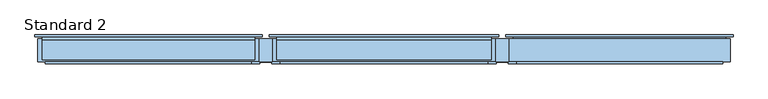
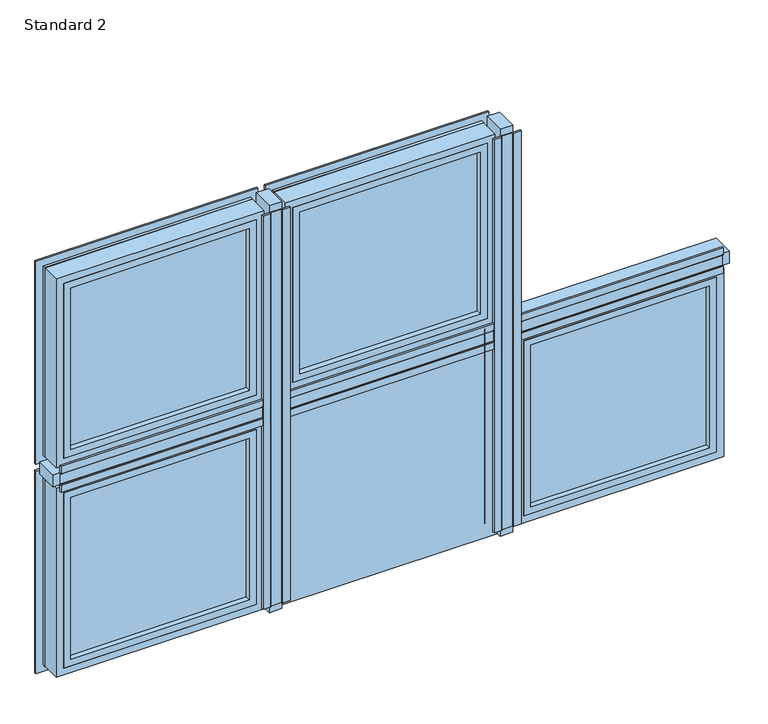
"""IFC4 building model written with IfcOpenShell, lengths in millimetres: window geometry, SMARTS_AlithermHeritage : Standard 2."""

from ifc_helpers import new_model, si_unit, point, frame, frame_2d, origin, place, context, project, spatial, polyline, circle_curve, ellipse_curve, trimmed, segment, composite_curve, outline, extrude, faceted_brep, source, transform, mapped, element, save
from ifc_brep_helpers import plane_surface, cylinder_surface, revolved_surface, advanced_brep


def standard_2_70366785(model_context):
    return source(origin(), model_context, "Body", "SolidModel", [
        extrude(outline(polyline([(-260.3608122, 95.2798432), (-232.9725211, 95.2798432), (-232.9725211, 47.279476), (-260.3608122, 47.279476), (-260.3608122, 95.2798432)])), frame((0.0, 0.0, 652.6941456), z_axis=(0.0, 0.0, 1.0), x_axis=(1.0, 0.0, 0.0)), (0.0, 0.0, 1.0), 919.6117089),
        extrude(outline(composite_curve([segment(polyline([(-275.6666667, 47.279476), (-217.6666667, 47.279476), (-217.6666667, 43.2798432), (-233.6666667, 43.2798432)]), True, "CONTINUOUS"), segment(trimmed(circle_curve(frame_2d((-233.6666667, 44.2798432)), 1.0), [point((-233.6666667, 43.2798432))], [point((-234.6666667, 44.2798432))], False, "CARTESIAN"), True, "CONTINUOUS"), segment(polyline([(-234.6666667, 44.2798432), (-234.6666667, 45.7798432), (-258.6666667, 45.7798432), (-258.6666667, 44.2798432)]), True, "CONTINUOUS"), segment(trimmed(circle_curve(frame_2d((-259.6666667, 44.2798432)), 1.0), [point((-258.6666667, 44.2798432))], [point((-259.6666667, 43.2798432))], False, "CARTESIAN"), True, "CONTINUOUS"), segment(polyline([(-259.6666667, 43.2798432), (-275.6666667, 43.2798432), (-275.6666667, 47.279476)]), True, "CONTINUOUS")], self_intersect=False)), frame((0.0, 0.0, 668.0), z_axis=(0.0, 0.0, 1.0), x_axis=(1.0, 0.0, 0.0)), (0.0, 0.0, 1.0), 889.0),
        extrude(outline(polyline([(232.9725211, 95.2798432), (260.3608122, 95.2798432), (260.3608122, 47.279476), (232.9725211, 47.279476), (232.9725211, 95.2798432)])), frame((0.0, 0.0, 652.6941456), z_axis=(0.0, 0.0, 1.0), x_axis=(1.0, 0.0, 0.0)), (0.0, 0.0, 1.0), 919.6117089),
        extrude(outline(composite_curve([segment(polyline([(217.6666667, 47.279476), (275.6666667, 47.279476), (275.6666667, 43.2798432), (259.6666667, 43.2798432)]), True, "CONTINUOUS"), segment(trimmed(circle_curve(frame_2d((259.6666667, 44.2798432)), 1.0), [point((259.6666667, 43.2798432))], [point((258.6666667, 44.2798432))], False, "CARTESIAN"), True, "CONTINUOUS"), segment(polyline([(258.6666667, 44.2798432), (258.6666667, 45.7798432), (234.6666667, 45.7798432), (234.6666667, 44.2798432)]), True, "CONTINUOUS"), segment(trimmed(circle_curve(frame_2d((233.6666667, 44.2798432)), 1.0), [point((234.6666667, 44.2798432))], [point((233.6666667, 43.2798432))], False, "CARTESIAN"), True, "CONTINUOUS"), segment(polyline([(233.6666667, 43.2798432), (217.6666667, 43.2798432), (217.6666667, 47.279476)]), True, "CONTINUOUS")], self_intersect=False)), frame((0.0, 0.0, 668.0), z_axis=(0.0, 0.0, 1.0), x_axis=(1.0, 0.0, 0.0)), (0.0, 0.0, 1.0), 889.0),
        extrude(outline(polyline([(-260.3608122, 95.2798432), (-260.3608122, 47.279476), (-722.3058544, 47.279476), (-722.3058544, 95.2798432), (-260.3608122, 95.2798432)])), frame((0.0, 0.0, 1098.8058544), z_axis=(0.0, 0.0, 1.0), x_axis=(1.0, 0.0, 0.0)), (0.0, 0.0, 1.0), 27.3882911),
        extrude(outline(composite_curve([segment(polyline([(47.279476, 1083.5), (43.2798432, 1083.5), (43.2798432, 1099.5)]), True, "CONTINUOUS"), segment(trimmed(circle_curve(frame_2d((44.2798432, 1099.5)), 1.0), [point((43.2798432, 1099.5))], [point((44.2798432, 1100.5))], False, "CARTESIAN"), True, "CONTINUOUS"), segment(polyline([(44.2798432, 1100.5), (45.7798432, 1100.5), (45.7798432, 1124.5), (44.2798432, 1124.5)]), True, "CONTINUOUS"), segment(trimmed(circle_curve(frame_2d((44.2798432, 1125.5)), 1.0), [point((44.2798432, 1124.5))], [point((43.2798432, 1125.5))], False, "CARTESIAN"), True, "CONTINUOUS"), segment(polyline([(43.2798432, 1125.5), (43.2798432, 1141.5), (47.279476, 1141.5), (47.279476, 1083.5)]), True, "CONTINUOUS")], self_intersect=False)), frame((-707.0, 0.0, 0.0), z_axis=(1.0, 0.0, 0.0), x_axis=(0.0, 1.0, 0.0)), (0.0, 0.0, 1.0), 431.3333333),
        extrude(outline(polyline([(232.9725211, 95.2798432), (232.9725211, 47.279476), (-232.9725211, 47.279476), (-232.9725211, 95.2798432), (232.9725211, 95.2798432)])), frame((0.0, 0.0, 1098.8058544), z_axis=(0.0, 0.0, 1.0), x_axis=(1.0, 0.0, 0.0)), (0.0, 0.0, 1.0), 27.3882911),
        extrude(outline(composite_curve([segment(polyline([(47.279476, 1083.5), (43.2798432, 1083.5), (43.2798432, 1099.5)]), True, "CONTINUOUS"), segment(trimmed(circle_curve(frame_2d((44.2798432, 1099.5)), 1.0), [point((43.2798432, 1099.5))], [point((44.2798432, 1100.5))], False, "CARTESIAN"), True, "CONTINUOUS"), segment(polyline([(44.2798432, 1100.5), (45.7798432, 1100.5), (45.7798432, 1124.5), (44.2798432, 1124.5)]), True, "CONTINUOUS"), segment(trimmed(circle_curve(frame_2d((44.2798432, 1125.5)), 1.0), [point((44.2798432, 1124.5))], [point((43.2798432, 1125.5))], False, "CARTESIAN"), True, "CONTINUOUS"), segment(polyline([(43.2798432, 1125.5), (43.2798432, 1141.5), (47.279476, 1141.5), (47.279476, 1083.5)]), True, "CONTINUOUS")], self_intersect=False)), frame((-217.6666667, 0.0, 0.0), z_axis=(1.0, 0.0, 0.0), x_axis=(0.0, 1.0, 0.0)), (0.0, 0.0, 1.0), 435.3333333),
        extrude(outline(polyline([(722.3058544, 95.2798432), (722.3058544, 47.279476), (260.3608122, 47.279476), (260.3608122, 95.2798432), (722.3058544, 95.2798432)])), frame((0.0, 0.0, 1098.8058544), z_axis=(0.0, 0.0, 1.0), x_axis=(1.0, 0.0, 0.0)), (0.0, 0.0, 1.0), 27.3882911),
        extrude(outline(composite_curve([segment(polyline([(47.279476, 1083.5), (43.2798432, 1083.5), (43.2798432, 1099.5)]), True, "CONTINUOUS"), segment(trimmed(circle_curve(frame_2d((44.2798432, 1099.5)), 1.0), [point((43.2798432, 1099.5))], [point((44.2798432, 1100.5))], False, "CARTESIAN"), True, "CONTINUOUS"), segment(polyline([(44.2798432, 1100.5), (45.7798432, 1100.5), (45.7798432, 1124.5), (44.2798432, 1124.5)]), True, "CONTINUOUS"), segment(trimmed(circle_curve(frame_2d((44.2798432, 1125.5)), 1.0), [point((44.2798432, 1124.5))], [point((43.2798432, 1125.5))], False, "CARTESIAN"), True, "CONTINUOUS"), segment(polyline([(43.2798432, 1125.5), (43.2798432, 1141.5), (47.279476, 1141.5), (47.279476, 1083.5)]), True, "CONTINUOUS")], self_intersect=False)), frame((275.6666667, 0.0, 0.0), z_axis=(1.0, 0.0, 0.0), x_axis=(0.0, 1.0, 0.0)), (0.0, 0.0, 1.0), 431.3333333),
        extrude(outline(polyline([(-693.5, 89.2798432), (-289.1666667, 89.2798432), (-289.1666667, 85.2798432), (-693.5, 85.2798432), (-693.5, 89.2798432)])), frame((0.0, 0.0, 681.5), z_axis=(0.0, 0.0, 1.0), x_axis=(1.0, 0.0, 0.0)), (0.0, 0.0, 1.0), 388.5),
        extrude(outline(polyline([(-693.5, 69.2798432), (-289.1666667, 69.2798432), (-289.1666667, 65.2798432), (-693.5, 65.2798432), (-693.5, 69.2798432)])), frame((0.0, 0.0, 681.5), z_axis=(0.0, 0.0, 1.0), x_axis=(1.0, 0.0, 0.0)), (0.0, 0.0, 1.0), 388.5),
        extrude(outline(polyline([(1070.0, -693.5), (681.5, -693.5), (681.5, -289.1666667), (1070.0, -289.1666667), (1070.0, -693.5)]), holes=[polyline([(1060.0, -299.1666667), (691.5, -299.1666667), (691.5, -683.5), (1060.0, -683.5), (1060.0, -299.1666667)])]), frame((0.0, 69.2798432, 0.0), z_axis=(0.0, 1.0, 0.0), x_axis=(0.0, 0.0, 1.0)), (0.0, 0.0, 1.0), 16.0),
        extrude(outline(polyline([(1073.5052956, -697.0052956), (677.9947044, -697.0052956), (677.9947044, -285.661371), (1073.5052956, -285.661371), (1073.5052956, -697.0052956)]), holes=[polyline([(1058.5, -300.6666667), (693.0, -300.6666667), (693.0, -682.0), (1058.5, -682.0), (1058.5, -300.6666667)])]), frame((0.0, 51.2798432, 0.0), z_axis=(0.0, 1.0, 0.0), x_axis=(0.0, 0.0, 1.0)), (0.0, 0.0, 1.0), 11.3),
        extrude(outline(polyline([(662.3548042, -712.6451958), (662.3548042, -270.0214709), (1089.1451958, -270.0214709), (1089.1451958, -712.6451958), (662.3548042, -712.6451958)]), holes=[polyline([(1073.5, -697.0), (1073.5, -285.6666667), (678.0, -285.6666667), (678.0, -697.0), (1073.5, -697.0)])]), frame((0.0, 51.2798432, 0.0), z_axis=(0.0, 1.0, 0.0), x_axis=(0.0, 0.0, 1.0)), (0.0, 0.0, 1.0), 41.6),
        advanced_brep(
        [(-682.0, 98.0798432, 1058.5), (-682.0, 92.8798432, 1058.5), (-682.0, 92.8798432, 693.0), (-682.0, 98.0798432, 693.0), (-300.6666667, 92.8798432, 693.0), (-300.6666667, 98.0798432, 693.0), (-300.6666667, 92.8798432, 1058.5), (-300.6666667, 98.0798432, 1058.5), (-728.2, 99.2798432, 1104.7), (-728.2, 103.2798432, 1104.7), (-728.2, 103.2798432, 646.8), (-728.2, 99.2798432, 646.8), (-254.4666667, 103.2798432, 646.8), (-254.4666667, 99.2798432, 646.8), (-254.4666667, 103.2798432, 1104.7), (-254.4666667, 99.2798432, 1104.7), (-713.1467657, 99.2798432, 1089.6467657), (-269.5199009, 99.2798432, 1089.6467657), (-269.5199009, 99.2798432, 661.8532343), (-713.1467657, 99.2798432, 661.8532343), (-699.2, 103.2798432, 675.8), (-283.4666667, 103.2798432, 675.8), (-283.4666667, 103.2798432, 1075.7), (-699.2, 103.2798432, 1075.7), (-713.1467657, 92.8798432, 1089.6467657), (-713.1467657, 92.8798432, 661.8532343), (-269.5199009, 92.8798432, 661.8532343), (-269.5199009, 92.8798432, 1089.6467657), (-697.2, 101.2798432, 1073.7), (-697.2, 100.0798432, 1073.7), (-697.2, 100.0798432, 677.8), (-697.2, 101.2798432, 677.8), (-695.2, 98.0798432, 1071.7), (-695.2, 98.0798432, 679.8), (-285.4666667, 100.0798432, 677.8), (-285.4666667, 101.2798432, 677.8), (-287.4666667, 98.0798432, 679.8), (-285.4666667, 100.0798432, 1073.7), (-285.4666667, 101.2798432, 1073.7), (-287.4666667, 98.0798432, 1071.7)],
        [
            (0, 1),
            (1, 2),
            (2, 3),
            (3, 0),
            (2, 4),
            (4, 5),
            (5, 3),
            (4, 6),
            (6, 7),
            (7, 5),
            (6, 1),
            (0, 7),
            (8, 9),
            (9, 10),
            (10, 11),
            (11, 8),
            (10, 12),
            (12, 13),
            (13, 11),
            (12, 14),
            (14, 15),
            (15, 13),
            (15, 8),
            (16, 17),
            (17, 18),
            (18, 19),
            (19, 16),
            (14, 9),
            (20, 21),
            (21, 22),
            (22, 23),
            (23, 20),
            (24, 16),
            (19, 25),
            (25, 24),
            (18, 26),
            (26, 25),
            (17, 27),
            (27, 26),
            (27, 24),
            (28, 29),
            (29, 30),
            (30, 31),
            (31, 28),
            (29, 32, ellipse_curve(frame((-695.2, 100.0798432, 1071.7), z_axis=(0.7071067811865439, 0.0, 0.7071067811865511), x_axis=(0.7071067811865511, 0.0, -0.7071067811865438)), 2.8284271, 2.0)),
            (32, 33),
            (33, 30, ellipse_curve(frame((-695.2, 100.0798432, 679.8), z_axis=(0.7071067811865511, 0.0, -0.7071067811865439), x_axis=(-0.7071067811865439, 0.0, -0.7071067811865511)), 2.8284271, 2.0)),
            (30, 34),
            (34, 35),
            (35, 31),
            (33, 36),
            (36, 34, ellipse_curve(frame((-287.4666667, 100.0798432, 679.8), z_axis=(0.7071067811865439, 0.0, 0.7071067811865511), x_axis=(0.7071067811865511, 0.0, -0.7071067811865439)), 2.8284271, 2.0)),
            (34, 37),
            (37, 38),
            (38, 35),
            (36, 39),
            (39, 37, ellipse_curve(frame((-287.4666667, 100.0798432, 1071.7), z_axis=(-0.7071067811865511, 0.0, 0.7071067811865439), x_axis=(0.7071067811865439, 0.0, 0.7071067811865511)), 2.8284271, 2.0)),
            (32, 39),
            (37, 29),
            (28, 38),
            (23, 28, ellipse_curve(frame((-699.2, 101.2798432, 1075.7), z_axis=(-0.7071067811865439, 0.0, -0.7071067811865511), x_axis=(-0.7071067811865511, 0.0, 0.7071067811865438)), 2.8284271, 2.0)),
            (31, 20, ellipse_curve(frame((-699.2, 101.2798432, 675.8), z_axis=(-0.7071067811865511, 0.0, 0.7071067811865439), x_axis=(0.7071067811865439, 0.0, 0.7071067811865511)), 2.8284271, 2.0)),
            (35, 21, ellipse_curve(frame((-283.4666667, 101.2798432, 675.8), z_axis=(-0.7071067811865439, 0.0, -0.7071067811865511), x_axis=(-0.7071067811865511, 0.0, 0.7071067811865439)), 2.8284271, 2.0)),
            (38, 22, ellipse_curve(frame((-283.4666667, 101.2798432, 1075.7), z_axis=(0.7071067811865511, 0.0, -0.7071067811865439), x_axis=(-0.7071067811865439, 0.0, -0.7071067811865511)), 2.8284271, 2.0)),
        ],
        [
            plane_surface(frame((-682.0, 92.8798432, 1058.5), z_axis=(1.0, 0.0, 0.0), x_axis=(0.0, 0.0, -1.0))),
            plane_surface(frame((-682.0, 92.8798432, 693.0), z_axis=(0.0, 0.0, 1.0), x_axis=(1.0, 0.0, 0.0))),
            plane_surface(frame((-300.6666667, 92.8798432, 693.0), z_axis=(-1.0, 0.0, 0.0), x_axis=(0.0, 0.0, 1.0))),
            plane_surface(frame((-300.6666667, 92.8798432, 1058.5), z_axis=(0.0, 0.0, -1.0), x_axis=(-1.0, 0.0, 0.0))),
            plane_surface(frame((-728.2, 103.2798432, 1104.7), z_axis=(-1.0, 0.0, 0.0), x_axis=(0.0, 0.0, -1.0))),
            plane_surface(frame((-728.2, 103.2798432, 646.8), z_axis=(0.0, 0.0, -1.0), x_axis=(1.0, 0.0, 0.0))),
            plane_surface(frame((-254.4666667, 103.2798432, 646.8), z_axis=(1.0, 0.0, 0.0), x_axis=(0.0, 0.0, 1.0))),
            plane_surface(frame((-254.4666667, 99.2798432, 1104.7), z_axis=(0.0, -1.0, 0.0), x_axis=(-1.0, 0.0, 0.0))),
            plane_surface(frame((-254.4666667, 103.2798432, 1104.7), z_axis=(0.0, 0.0, 1.0), x_axis=(-1.0, 0.0, 0.0))),
            plane_surface(frame((-283.4666667, 103.2798432, 1075.7), z_axis=(0.0, 1.0, 0.0), x_axis=(-1.0, 0.0, 0.0))),
            plane_surface(frame((-713.1467657, 99.2798432, 1089.6467657), z_axis=(-1.0, 0.0, 0.0), x_axis=(0.0, 0.0, -1.0))),
            plane_surface(frame((-713.1467657, 99.2798432, 661.8532343), z_axis=(0.0, 0.0, -1.0), x_axis=(1.0, 0.0, 0.0))),
            plane_surface(frame((-269.5199009, 99.2798432, 661.8532343), z_axis=(1.0, 0.0, 0.0), x_axis=(0.0, 0.0, 1.0))),
            plane_surface(frame((-269.5199009, 92.8798432, 1089.6467657), z_axis=(0.0, -1.0, 0.0), x_axis=(-1.0, 0.0, 0.0))),
            plane_surface(frame((-269.5199009, 99.2798432, 1089.6467657), z_axis=(0.0, 0.0, 1.0), x_axis=(-1.0, 0.0, 0.0))),
            plane_surface(frame((-697.2, 100.0798432, 1073.7), z_axis=(1.0, 0.0, 0.0), x_axis=(0.0, 0.0, -1.0))),
            revolved_surface(polyline([(-697.2, 100.0798432, 677.8), (-697.2, 100.0798432, 1073.7)]), (-695.2, 100.0798432, 1083.5), (0.0, 0.0, -1.0)),
            plane_surface(frame((-697.2, 100.0798432, 677.8), z_axis=(0.0, 0.0, 1.0), x_axis=(1.0, 0.0, 0.0))),
            revolved_surface(polyline([(-285.4666667, 100.0798432, 677.8), (-697.2, 100.0798432, 677.8)]), (-707.0, 100.0798432, 679.8), (1.0, 0.0, 0.0)),
            plane_surface(frame((-285.4666667, 100.0798432, 677.8), z_axis=(-1.0, 0.0, 0.0), x_axis=(0.0, 0.0, 1.0))),
            revolved_surface(polyline([(-285.4666667, 100.0798432, 1073.7), (-285.4666667, 100.0798432, 677.8)]), (-287.4666667, 100.0798432, 668.0), (0.0, 0.0, 1.0)),
            plane_surface(frame((-300.6666667, 98.0798432, 1058.5), z_axis=(0.0, 1.0, 0.0), x_axis=(-1.0, 0.0, 0.0))),
            plane_surface(frame((-285.4666667, 100.0798432, 1073.7), z_axis=(0.0, 0.0, -1.0), x_axis=(-1.0, 0.0, 0.0))),
            revolved_surface(polyline([(-697.2, 100.0798432, 1073.7), (-285.4666667, 100.0798432, 1073.7)]), (-275.6666667, 100.0798432, 1071.7), (-1.0, 0.0, 0.0)),
            cylinder_surface(frame((-699.2, 101.2798432, 1083.5), z_axis=(0.0, 0.0, 1.0), x_axis=(-1.0, 0.0, 0.0)), 2.0),
            cylinder_surface(frame((-707.0, 101.2798432, 675.8), z_axis=(-1.0, 0.0, 0.0), x_axis=(0.0, 0.0, -1.0)), 2.0),
            cylinder_surface(frame((-283.4666667, 101.2798432, 668.0), z_axis=(0.0, 0.0, -1.0), x_axis=(1.0, 0.0, 0.0)), 2.0),
            cylinder_surface(frame((-275.6666667, 101.2798432, 1075.7), z_axis=(1.0, 0.0, 0.0), x_axis=(0.0, 0.0, 1.0)), 2.0),
        ],
        [
            (0, [[1, 2, 3, 4]]),
            (1, [[-3, 5, 6, 7]]),
            (2, [[-6, 8, 9, 10]]),
            (3, [[-9, 11, -1, 12]]),
            (4, [[13, 14, 15, 16]]),
            (5, [[-15, 17, 18, 19]]),
            (6, [[-18, 20, 21, 22]]),
            (7, [[-19, -22, 23, -16], [24, 25, 26, 27]]),
            (8, [[-21, 28, -13, -23]]),
            (9, [[-28, -20, -17, -14], [29, 30, 31, 32]]),
            (10, [[33, -27, 34, 35]]),
            (11, [[-34, -26, 36, 37]]),
            (12, [[-36, -25, 38, 39]]),
            (13, [[-37, -39, 40, -35], [-11, -8, -5, -2]]),
            (14, [[-38, -24, -33, -40]]),
            (15, [[41, 42, 43, 44]]),
            (16, [[45, 46, 47, -42]]),
            (17, [[-43, 48, 49, 50]]),
            (18, [[-47, 51, 52, -48]]),
            (19, [[-49, 53, 54, 55]]),
            (20, [[-52, 56, 57, -53]]),
            (21, [[58, -56, -51, -46], [-7, -10, -12, -4]]),
            (22, [[-54, 59, -41, 60]]),
            (23, [[-57, -58, -45, -59]]),
            (24, [[61, -44, 62, -32]]),
            (25, [[-62, -50, 63, -29]]),
            (26, [[-63, -55, 64, -30]]),
            (27, [[-64, -60, -61, -31]]),
        ],
    ),
        extrude(outline(polyline([(-693.5, 89.2798432), (-289.1666667, 89.2798432), (-289.1666667, 85.2798432), (-693.5, 85.2798432), (-693.5, 89.2798432)])), frame((0.0, 0.0, 1155.0), z_axis=(0.0, 0.0, 1.0), x_axis=(1.0, 0.0, 0.0)), (0.0, 0.0, 1.0), 388.5),
        extrude(outline(polyline([(-693.5, 69.2798432), (-289.1666667, 69.2798432), (-289.1666667, 65.2798432), (-693.5, 65.2798432), (-693.5, 69.2798432)])), frame((0.0, 0.0, 1155.0), z_axis=(0.0, 0.0, 1.0), x_axis=(1.0, 0.0, 0.0)), (0.0, 0.0, 1.0), 388.5),
        extrude(outline(polyline([(1543.5, -693.5), (1155.0, -693.5), (1155.0, -289.1666667), (1543.5, -289.1666667), (1543.5, -693.5)]), holes=[polyline([(1533.5, -299.1666667), (1165.0, -299.1666667), (1165.0, -683.5), (1533.5, -683.5), (1533.5, -299.1666667)])]), frame((0.0, 69.2798432, 0.0), z_axis=(0.0, 1.0, 0.0), x_axis=(0.0, 0.0, 1.0)), (0.0, 0.0, 1.0), 16.0),
        extrude(outline(polyline([(1547.0052956, -697.0052956), (1151.4947044, -697.0052956), (1151.4947044, -285.661371), (1547.0052956, -285.661371), (1547.0052956, -697.0052956)]), holes=[polyline([(1532.0, -300.6666667), (1166.5, -300.6666667), (1166.5, -682.0), (1532.0, -682.0), (1532.0, -300.6666667)])]), frame((0.0, 51.2798432, 0.0), z_axis=(0.0, 1.0, 0.0), x_axis=(0.0, 0.0, 1.0)), (0.0, 0.0, 1.0), 11.3),
        extrude(outline(polyline([(1135.8548042, -712.6451958), (1135.8548042, -270.0214709), (1562.6451958, -270.0214709), (1562.6451958, -712.6451958), (1135.8548042, -712.6451958)]), holes=[polyline([(1547.0, -697.0), (1547.0, -285.6666667), (1151.5, -285.6666667), (1151.5, -697.0), (1547.0, -697.0)])]), frame((0.0, 51.2798432, 0.0), z_axis=(0.0, 1.0, 0.0), x_axis=(0.0, 0.0, 1.0)), (0.0, 0.0, 1.0), 41.6),
        advanced_brep(
        [(-682.0, 98.0798432, 1532.0), (-682.0, 92.8798432, 1532.0), (-682.0, 92.8798432, 1166.5), (-682.0, 98.0798432, 1166.5), (-300.6666667, 92.8798432, 1166.5), (-300.6666667, 98.0798432, 1166.5), (-300.6666667, 92.8798432, 1532.0), (-300.6666667, 98.0798432, 1532.0), (-728.2, 99.2798432, 1578.2), (-728.2, 103.2798432, 1578.2), (-728.2, 103.2798432, 1120.3), (-728.2, 99.2798432, 1120.3), (-254.4666667, 103.2798432, 1120.3), (-254.4666667, 99.2798432, 1120.3), (-254.4666667, 103.2798432, 1578.2), (-254.4666667, 99.2798432, 1578.2), (-713.1467657, 99.2798432, 1563.1467657), (-269.5199009, 99.2798432, 1563.1467657), (-269.5199009, 99.2798432, 1135.3532343), (-713.1467657, 99.2798432, 1135.3532343), (-699.2, 103.2798432, 1149.3), (-283.4666667, 103.2798432, 1149.3), (-283.4666667, 103.2798432, 1549.2), (-699.2, 103.2798432, 1549.2), (-713.1467657, 92.8798432, 1563.1467657), (-713.1467657, 92.8798432, 1135.3532343), (-269.5199009, 92.8798432, 1135.3532343), (-269.5199009, 92.8798432, 1563.1467657), (-697.2, 101.2798432, 1547.2), (-697.2, 100.0798432, 1547.2), (-697.2, 100.0798432, 1151.3), (-697.2, 101.2798432, 1151.3), (-695.2, 98.0798432, 1545.2), (-695.2, 98.0798432, 1153.3), (-285.4666667, 100.0798432, 1151.3), (-285.4666667, 101.2798432, 1151.3), (-287.4666667, 98.0798432, 1153.3), (-285.4666667, 100.0798432, 1547.2), (-285.4666667, 101.2798432, 1547.2), (-287.4666667, 98.0798432, 1545.2)],
        [
            (0, 1),
            (1, 2),
            (2, 3),
            (3, 0),
            (2, 4),
            (4, 5),
            (5, 3),
            (4, 6),
            (6, 7),
            (7, 5),
            (6, 1),
            (0, 7),
            (8, 9),
            (9, 10),
            (10, 11),
            (11, 8),
            (10, 12),
            (12, 13),
            (13, 11),
            (12, 14),
            (14, 15),
            (15, 13),
            (15, 8),
            (16, 17),
            (17, 18),
            (18, 19),
            (19, 16),
            (14, 9),
            (20, 21),
            (21, 22),
            (22, 23),
            (23, 20),
            (24, 16),
            (19, 25),
            (25, 24),
            (18, 26),
            (26, 25),
            (17, 27),
            (27, 26),
            (27, 24),
            (28, 29),
            (29, 30),
            (30, 31),
            (31, 28),
            (29, 32, ellipse_curve(frame((-695.2, 100.0798432, 1545.2), z_axis=(0.7071067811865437, 0.0, 0.7071067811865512), x_axis=(0.7071067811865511, 0.0, -0.7071067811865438)), 2.8284271, 2.0)),
            (32, 33),
            (33, 30, ellipse_curve(frame((-695.2, 100.0798432, 1153.3), z_axis=(0.7071067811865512, 0.0, -0.7071067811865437), x_axis=(-0.7071067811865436, 0.0, -0.7071067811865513)), 2.8284271, 2.0)),
            (30, 34),
            (34, 35),
            (35, 31),
            (33, 36),
            (36, 34, ellipse_curve(frame((-287.4666667, 100.0798432, 1153.3), z_axis=(0.7071067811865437, 0.0, 0.7071067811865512), x_axis=(0.7071067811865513, 0.0, -0.7071067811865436)), 2.8284271, 2.0)),
            (34, 37),
            (37, 38),
            (38, 35),
            (36, 39),
            (39, 37, ellipse_curve(frame((-287.4666667, 100.0798432, 1545.2), z_axis=(-0.7071067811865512, 0.0, 0.7071067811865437), x_axis=(0.7071067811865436, 0.0, 0.7071067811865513)), 2.8284271, 2.0)),
            (32, 39),
            (37, 29),
            (28, 38),
            (23, 28, ellipse_curve(frame((-699.2, 101.2798432, 1549.2), z_axis=(-0.7071067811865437, 0.0, -0.7071067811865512), x_axis=(-0.7071067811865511, 0.0, 0.7071067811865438)), 2.8284271, 2.0)),
            (31, 20, ellipse_curve(frame((-699.2, 101.2798432, 1149.3), z_axis=(-0.7071067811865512, 0.0, 0.7071067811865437), x_axis=(0.7071067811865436, 0.0, 0.7071067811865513)), 2.8284271, 2.0)),
            (35, 21, ellipse_curve(frame((-283.4666667, 101.2798432, 1149.3), z_axis=(-0.7071067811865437, 0.0, -0.7071067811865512), x_axis=(-0.7071067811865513, 0.0, 0.7071067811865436)), 2.8284271, 2.0)),
            (38, 22, ellipse_curve(frame((-283.4666667, 101.2798432, 1549.2), z_axis=(0.7071067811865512, 0.0, -0.7071067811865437), x_axis=(-0.7071067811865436, 0.0, -0.7071067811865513)), 2.8284271, 2.0)),
        ],
        [
            plane_surface(frame((-682.0, 92.8798432, 1532.0), z_axis=(1.0, 0.0, 0.0), x_axis=(0.0, 0.0, -1.0))),
            plane_surface(frame((-682.0, 92.8798432, 1166.5), z_axis=(0.0, 0.0, 1.0), x_axis=(1.0, 0.0, 0.0))),
            plane_surface(frame((-300.6666667, 92.8798432, 1166.5), z_axis=(-1.0, 0.0, 0.0), x_axis=(0.0, 0.0, 1.0))),
            plane_surface(frame((-300.6666667, 92.8798432, 1532.0), z_axis=(0.0, 0.0, -1.0), x_axis=(-1.0, 0.0, 0.0))),
            plane_surface(frame((-728.2, 103.2798432, 1578.2), z_axis=(-1.0, 0.0, 0.0), x_axis=(0.0, 0.0, -1.0))),
            plane_surface(frame((-728.2, 103.2798432, 1120.3), z_axis=(0.0, 0.0, -1.0), x_axis=(1.0, 0.0, 0.0))),
            plane_surface(frame((-254.4666667, 103.2798432, 1120.3), z_axis=(1.0, 0.0, 0.0), x_axis=(0.0, 0.0, 1.0))),
            plane_surface(frame((-254.4666667, 99.2798432, 1578.2), z_axis=(0.0, -1.0, 0.0), x_axis=(-1.0, 0.0, 0.0))),
            plane_surface(frame((-254.4666667, 103.2798432, 1578.2), z_axis=(0.0, 0.0, 1.0), x_axis=(-1.0, 0.0, 0.0))),
            plane_surface(frame((-283.4666667, 103.2798432, 1549.2), z_axis=(0.0, 1.0, 0.0), x_axis=(-1.0, 0.0, 0.0))),
            plane_surface(frame((-713.1467657, 99.2798432, 1563.1467657), z_axis=(-1.0, 0.0, 0.0), x_axis=(0.0, 0.0, -1.0))),
            plane_surface(frame((-713.1467657, 99.2798432, 1135.3532343), z_axis=(0.0, 0.0, -1.0), x_axis=(1.0, 0.0, 0.0))),
            plane_surface(frame((-269.5199009, 99.2798432, 1135.3532343), z_axis=(1.0, 0.0, 0.0), x_axis=(0.0, 0.0, 1.0))),
            plane_surface(frame((-269.5199009, 92.8798432, 1563.1467657), z_axis=(0.0, -1.0, 0.0), x_axis=(-1.0, 0.0, 0.0))),
            plane_surface(frame((-269.5199009, 99.2798432, 1563.1467657), z_axis=(0.0, 0.0, 1.0), x_axis=(-1.0, 0.0, 0.0))),
            plane_surface(frame((-697.2, 100.0798432, 1547.2), z_axis=(1.0, 0.0, 0.0), x_axis=(0.0, 0.0, -1.0))),
            revolved_surface(polyline([(-697.2, 100.0798432, 1151.3), (-697.2, 100.0798432, 1547.2)]), (-695.2, 100.0798432, 1557.0), (0.0, 0.0, -1.0)),
            plane_surface(frame((-697.2, 100.0798432, 1151.3), z_axis=(0.0, 0.0, 1.0), x_axis=(1.0, 0.0, 0.0))),
            revolved_surface(polyline([(-285.4666667, 100.0798432, 1151.3), (-697.2, 100.0798432, 1151.3)]), (-707.0, 100.0798432, 1153.3), (1.0, 0.0, 0.0)),
            plane_surface(frame((-285.4666667, 100.0798432, 1151.3), z_axis=(-1.0, 0.0, 0.0), x_axis=(0.0, 0.0, 1.0))),
            revolved_surface(polyline([(-285.4666667, 100.0798432, 1547.2), (-285.4666667, 100.0798432, 1151.3)]), (-287.4666667, 100.0798432, 1141.5), (0.0, 0.0, 1.0)),
            plane_surface(frame((-300.6666667, 98.0798432, 1532.0), z_axis=(0.0, 1.0, 0.0), x_axis=(-1.0, 0.0, 0.0))),
            plane_surface(frame((-285.4666667, 100.0798432, 1547.2), z_axis=(0.0, 0.0, -1.0), x_axis=(-1.0, 0.0, 0.0))),
            revolved_surface(polyline([(-697.2, 100.0798432, 1547.2), (-285.4666667, 100.0798432, 1547.2)]), (-275.6666667, 100.0798432, 1545.2), (-1.0, 0.0, 0.0)),
            cylinder_surface(frame((-699.2, 101.2798432, 1557.0), z_axis=(0.0, 0.0, 1.0), x_axis=(-1.0, 0.0, 0.0)), 2.0),
            cylinder_surface(frame((-707.0, 101.2798432, 1149.3), z_axis=(-1.0, 0.0, 0.0), x_axis=(0.0, 0.0, -1.0)), 2.0),
            cylinder_surface(frame((-283.4666667, 101.2798432, 1141.5), z_axis=(0.0, 0.0, -1.0), x_axis=(1.0, 0.0, 0.0)), 2.0),
            cylinder_surface(frame((-275.6666667, 101.2798432, 1549.2), z_axis=(1.0, 0.0, 0.0), x_axis=(0.0, 0.0, 1.0)), 2.0),
        ],
        [
            (0, [[1, 2, 3, 4]]),
            (1, [[-3, 5, 6, 7]]),
            (2, [[-6, 8, 9, 10]]),
            (3, [[-9, 11, -1, 12]]),
            (4, [[13, 14, 15, 16]]),
            (5, [[-15, 17, 18, 19]]),
            (6, [[-18, 20, 21, 22]]),
            (7, [[-19, -22, 23, -16], [24, 25, 26, 27]]),
            (8, [[-21, 28, -13, -23]]),
            (9, [[-28, -20, -17, -14], [29, 30, 31, 32]]),
            (10, [[33, -27, 34, 35]]),
            (11, [[-34, -26, 36, 37]]),
            (12, [[-36, -25, 38, 39]]),
            (13, [[-37, -39, 40, -35], [-11, -8, -5, -2]]),
            (14, [[-38, -24, -33, -40]]),
            (15, [[41, 42, 43, 44]]),
            (16, [[45, 46, 47, -42]]),
            (17, [[-43, 48, 49, 50]]),
            (18, [[-47, 51, 52, -48]]),
            (19, [[-49, 53, 54, 55]]),
            (20, [[-52, 56, 57, -53]]),
            (21, [[58, -56, -51, -46], [-7, -10, -12, -4]]),
            (22, [[-54, 59, -41, 60]]),
            (23, [[-57, -58, -45, -59]]),
            (24, [[61, -44, 62, -32]]),
            (25, [[-62, -50, 63, -29]]),
            (26, [[-63, -55, 64, -30]]),
            (27, [[-64, -60, -61, -31]]),
        ],
    ),
        extrude(outline(polyline([(-227.6666667, 75.2798432), (227.6666667, 75.2798432), (227.6666667, 71.2798432), (-227.6666667, 71.2798432), (-227.6666667, 75.2798432)])), frame((0.0, 0.0, 658.0), z_axis=(0.0, 0.0, 1.0), x_axis=(1.0, 0.0, 0.0)), (0.0, 0.0, 1.0), 435.5),
        extrude(outline(polyline([(-227.6666667, 55.2798432), (227.6666667, 55.2798432), (227.6666667, 51.2798432), (-227.6666667, 51.2798432), (-227.6666667, 55.2798432)])), frame((0.0, 0.0, 658.0), z_axis=(0.0, 0.0, 1.0), x_axis=(1.0, 0.0, 0.0)), (0.0, 0.0, 1.0), 435.5),
        extrude(outline(polyline([(1093.5, -227.6666667), (658.0, -227.6666667), (658.0, 227.6666667), (1093.5, 227.6666667), (1093.5, -227.6666667)]), holes=[polyline([(1083.5, 217.6666667), (668.0, 217.6666667), (668.0, -217.6666667), (1083.5, -217.6666667), (1083.5, 217.6666667)])]), frame((0.0, 55.2798432, 0.0), z_axis=(0.0, 1.0, 0.0), x_axis=(0.0, 0.0, 1.0)), (0.0, 0.0, 1.0), 16.0),
        faceted_brep([(227.4815515, 95.2798432, 1093.3148849), (217.6666667, 78.2798098, 1083.5), (-217.6666667, 78.2798098, 1083.5), (-227.4815515, 95.2798432, 1093.3148849), (233.0369343, 78.2798098, 1098.8702676), (233.0369343, 95.2798432, 1098.8702676), (-233.0369343, 95.2798432, 1098.8702676), (-233.0369343, 78.2798098, 1098.8702676), (-233.0369343, 78.2798098, 652.6297324), (-233.0369343, 95.2798432, 652.6297324), (233.0369343, 95.2798432, 652.6297324), (233.0369343, 78.2798098, 652.6297324), (-227.4815515, 95.2798432, 658.1851151), (227.4815515, 95.2798432, 658.1851151), (217.6666667, 78.2798098, 668.0), (-217.6666667, 78.2798098, 668.0)], [[[0, 1, 2, 3]], [[4, 5, 6, 7]], [[8, 9, 10, 11]], [[5, 10, 9, 6], [3, 12, 13, 0]], [[7, 8, 11, 4], [1, 14, 15, 2]], [[3, 2, 15, 12]], [[7, 6, 9, 8]], [[12, 15, 14, 13]], [[13, 14, 1, 0]], [[11, 10, 5, 4]]]),
        extrude(outline(polyline([(-204.1666667, 89.2798432), (204.1666667, 89.2798432), (204.1666667, 85.2798432), (-204.1666667, 85.2798432), (-204.1666667, 89.2798432)])), frame((0.0, 0.0, 1155.0), z_axis=(0.0, 0.0, 1.0), x_axis=(1.0, 0.0, 0.0)), (0.0, 0.0, 1.0), 388.5),
        extrude(outline(polyline([(-204.1666667, 69.2798432), (204.1666667, 69.2798432), (204.1666667, 65.2798432), (-204.1666667, 65.2798432), (-204.1666667, 69.2798432)])), frame((0.0, 0.0, 1155.0), z_axis=(0.0, 0.0, 1.0), x_axis=(1.0, 0.0, 0.0)), (0.0, 0.0, 1.0), 388.5),
        extrude(outline(polyline([(1543.5, -204.1666667), (1155.0, -204.1666667), (1155.0, 204.1666667), (1543.5, 204.1666667), (1543.5, -204.1666667)]), holes=[polyline([(1533.5, 194.1666667), (1165.0, 194.1666667), (1165.0, -194.1666667), (1533.5, -194.1666667), (1533.5, 194.1666667)])]), frame((0.0, 69.2798432, 0.0), z_axis=(0.0, 1.0, 0.0), x_axis=(0.0, 0.0, 1.0)), (0.0, 0.0, 1.0), 16.0),
        extrude(outline(polyline([(1547.0052956, -207.6719623), (1151.4947044, -207.6719623), (1151.4947044, 207.6719623), (1547.0052956, 207.6719623), (1547.0052956, -207.6719623)]), holes=[polyline([(1532.0, 192.6666667), (1166.5, 192.6666667), (1166.5, -192.6666667), (1532.0, -192.6666667), (1532.0, 192.6666667)])]), frame((0.0, 51.2798432, 0.0), z_axis=(0.0, 1.0, 0.0), x_axis=(0.0, 0.0, 1.0)), (0.0, 0.0, 1.0), 11.3),
        extrude(outline(polyline([(1135.8548042, -223.3118625), (1135.8548042, 223.3118625), (1562.6451958, 223.3118625), (1562.6451958, -223.3118625), (1135.8548042, -223.3118625)]), holes=[polyline([(1547.0, -207.6666667), (1547.0, 207.6666667), (1151.5, 207.6666667), (1151.5, -207.6666667), (1547.0, -207.6666667)])]), frame((0.0, 51.2798432, 0.0), z_axis=(0.0, 1.0, 0.0), x_axis=(0.0, 0.0, 1.0)), (0.0, 0.0, 1.0), 41.6),
        advanced_brep(
        [(-192.6666667, 98.0798432, 1532.0), (-192.6666667, 92.8798432, 1532.0), (-192.6666667, 92.8798432, 1166.5), (-192.6666667, 98.0798432, 1166.5), (192.6666667, 92.8798432, 1166.5), (192.6666667, 98.0798432, 1166.5), (192.6666667, 92.8798432, 1532.0), (192.6666667, 98.0798432, 1532.0), (-238.8666667, 99.2798432, 1578.2), (-238.8666667, 103.2798432, 1578.2), (-238.8666667, 103.2798432, 1120.3), (-238.8666667, 99.2798432, 1120.3), (238.8666667, 103.2798432, 1120.3), (238.8666667, 99.2798432, 1120.3), (238.8666667, 103.2798432, 1578.2), (238.8666667, 99.2798432, 1578.2), (-223.8134324, 99.2798432, 1563.1467657), (223.8134324, 99.2798432, 1563.1467657), (223.8134324, 99.2798432, 1135.3532343), (-223.8134324, 99.2798432, 1135.3532343), (-209.8666667, 103.2798432, 1149.3), (209.8666667, 103.2798432, 1149.3), (209.8666667, 103.2798432, 1549.2), (-209.8666667, 103.2798432, 1549.2), (-223.8134324, 92.8798432, 1563.1467657), (-223.8134324, 92.8798432, 1135.3532343), (223.8134324, 92.8798432, 1135.3532343), (223.8134324, 92.8798432, 1563.1467657), (-207.8666667, 101.2798432, 1547.2), (-207.8666667, 100.0798432, 1547.2), (-207.8666667, 100.0798432, 1151.3), (-207.8666667, 101.2798432, 1151.3), (-205.8666667, 98.0798432, 1545.2), (-205.8666667, 98.0798432, 1153.3), (207.8666667, 100.0798432, 1151.3), (207.8666667, 101.2798432, 1151.3), (205.8666667, 98.0798432, 1153.3), (207.8666667, 100.0798432, 1547.2), (207.8666667, 101.2798432, 1547.2), (205.8666667, 98.0798432, 1545.2)],
        [
            (0, 1),
            (1, 2),
            (2, 3),
            (3, 0),
            (2, 4),
            (4, 5),
            (5, 3),
            (4, 6),
            (6, 7),
            (7, 5),
            (6, 1),
            (0, 7),
            (8, 9),
            (9, 10),
            (10, 11),
            (11, 8),
            (10, 12),
            (12, 13),
            (13, 11),
            (12, 14),
            (14, 15),
            (15, 13),
            (15, 8),
            (16, 17),
            (17, 18),
            (18, 19),
            (19, 16),
            (14, 9),
            (20, 21),
            (21, 22),
            (22, 23),
            (23, 20),
            (24, 16),
            (19, 25),
            (25, 24),
            (18, 26),
            (26, 25),
            (17, 27),
            (27, 26),
            (27, 24),
            (28, 29),
            (29, 30),
            (30, 31),
            (31, 28),
            (29, 32, ellipse_curve(frame((-205.8666667, 100.0798432, 1545.2), z_axis=(0.7071067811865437, 0.0, 0.7071067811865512), x_axis=(0.7071067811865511, 0.0, -0.7071067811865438)), 2.8284271, 2.0)),
            (32, 33),
            (33, 30, ellipse_curve(frame((-205.8666667, 100.0798432, 1153.3), z_axis=(0.7071067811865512, 0.0, -0.7071067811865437), x_axis=(-0.7071067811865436, 0.0, -0.7071067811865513)), 2.8284271, 2.0)),
            (30, 34),
            (34, 35),
            (35, 31),
            (33, 36),
            (36, 34, ellipse_curve(frame((205.8666667, 100.0798432, 1153.3), z_axis=(0.7071067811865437, 0.0, 0.7071067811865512), x_axis=(0.7071067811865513, 0.0, -0.7071067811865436)), 2.8284271, 2.0)),
            (34, 37),
            (37, 38),
            (38, 35),
            (36, 39),
            (39, 37, ellipse_curve(frame((205.8666667, 100.0798432, 1545.2), z_axis=(-0.7071067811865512, 0.0, 0.7071067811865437), x_axis=(0.7071067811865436, 0.0, 0.7071067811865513)), 2.8284271, 2.0)),
            (32, 39),
            (37, 29),
            (28, 38),
            (23, 28, ellipse_curve(frame((-209.8666667, 101.2798432, 1549.2), z_axis=(-0.7071067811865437, 0.0, -0.7071067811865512), x_axis=(-0.7071067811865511, 0.0, 0.7071067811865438)), 2.8284271, 2.0)),
            (31, 20, ellipse_curve(frame((-209.8666667, 101.2798432, 1149.3), z_axis=(-0.7071067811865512, 0.0, 0.7071067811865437), x_axis=(0.7071067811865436, 0.0, 0.7071067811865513)), 2.8284271, 2.0)),
            (35, 21, ellipse_curve(frame((209.8666667, 101.2798432, 1149.3), z_axis=(-0.7071067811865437, 0.0, -0.7071067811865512), x_axis=(-0.7071067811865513, 0.0, 0.7071067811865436)), 2.8284271, 2.0)),
            (38, 22, ellipse_curve(frame((209.8666667, 101.2798432, 1549.2), z_axis=(0.7071067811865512, 0.0, -0.7071067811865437), x_axis=(-0.7071067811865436, 0.0, -0.7071067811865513)), 2.8284271, 2.0)),
        ],
        [
            plane_surface(frame((-192.6666667, 92.8798432, 1532.0), z_axis=(1.0, 0.0, 0.0), x_axis=(0.0, 0.0, -1.0))),
            plane_surface(frame((-192.6666667, 92.8798432, 1166.5), z_axis=(0.0, 0.0, 1.0), x_axis=(1.0, 0.0, 0.0))),
            plane_surface(frame((192.6666667, 92.8798432, 1166.5), z_axis=(-1.0, 0.0, 0.0), x_axis=(0.0, 0.0, 1.0))),
            plane_surface(frame((192.6666667, 92.8798432, 1532.0), z_axis=(0.0, 0.0, -1.0), x_axis=(-1.0, 0.0, 0.0))),
            plane_surface(frame((-238.8666667, 103.2798432, 1578.2), z_axis=(-1.0, 0.0, 0.0), x_axis=(0.0, 0.0, -1.0))),
            plane_surface(frame((-238.8666667, 103.2798432, 1120.3), z_axis=(0.0, 0.0, -1.0), x_axis=(1.0, 0.0, 0.0))),
            plane_surface(frame((238.8666667, 103.2798432, 1120.3), z_axis=(1.0, 0.0, 0.0), x_axis=(0.0, 0.0, 1.0))),
            plane_surface(frame((238.8666667, 99.2798432, 1578.2), z_axis=(0.0, -1.0, 0.0), x_axis=(-1.0, 0.0, 0.0))),
            plane_surface(frame((238.8666667, 103.2798432, 1578.2), z_axis=(0.0, 0.0, 1.0), x_axis=(-1.0, 0.0, 0.0))),
            plane_surface(frame((209.8666667, 103.2798432, 1549.2), z_axis=(0.0, 1.0, 0.0), x_axis=(-1.0, 0.0, 0.0))),
            plane_surface(frame((-223.8134324, 99.2798432, 1563.1467657), z_axis=(-1.0, 0.0, 0.0), x_axis=(0.0, 0.0, -1.0))),
            plane_surface(frame((-223.8134324, 99.2798432, 1135.3532343), z_axis=(0.0, 0.0, -1.0), x_axis=(1.0, 0.0, 0.0))),
            plane_surface(frame((223.8134324, 99.2798432, 1135.3532343), z_axis=(1.0, 0.0, 0.0), x_axis=(0.0, 0.0, 1.0))),
            plane_surface(frame((223.8134324, 92.8798432, 1563.1467657), z_axis=(0.0, -1.0, 0.0), x_axis=(-1.0, 0.0, 0.0))),
            plane_surface(frame((223.8134324, 99.2798432, 1563.1467657), z_axis=(0.0, 0.0, 1.0), x_axis=(-1.0, 0.0, 0.0))),
            plane_surface(frame((-207.8666667, 100.0798432, 1547.2), z_axis=(1.0, 0.0, 0.0), x_axis=(0.0, 0.0, -1.0))),
            revolved_surface(polyline([(-207.8666667, 100.0798432, 1151.3), (-207.8666667, 100.0798432, 1547.2)]), (-205.8666667, 100.0798432, 1557.0), (0.0, 0.0, -1.0)),
            plane_surface(frame((-207.8666667, 100.0798432, 1151.3), z_axis=(0.0, 0.0, 1.0), x_axis=(1.0, 0.0, 0.0))),
            revolved_surface(polyline([(207.8666667, 100.0798432, 1151.3), (-207.8666667, 100.0798432, 1151.3)]), (-217.6666667, 100.0798432, 1153.3), (1.0, 0.0, 0.0)),
            plane_surface(frame((207.8666667, 100.0798432, 1151.3), z_axis=(-1.0, 0.0, 0.0), x_axis=(0.0, 0.0, 1.0))),
            revolved_surface(polyline([(207.8666667, 100.0798432, 1547.2), (207.8666667, 100.0798432, 1151.3)]), (205.8666667, 100.0798432, 1141.5), (0.0, 0.0, 1.0)),
            plane_surface(frame((192.6666667, 98.0798432, 1532.0), z_axis=(0.0, 1.0, 0.0), x_axis=(-1.0, 0.0, 0.0))),
            plane_surface(frame((207.8666667, 100.0798432, 1547.2), z_axis=(0.0, 0.0, -1.0), x_axis=(-1.0, 0.0, 0.0))),
            revolved_surface(polyline([(-207.8666667, 100.0798432, 1547.2), (207.8666667, 100.0798432, 1547.2)]), (217.6666667, 100.0798432, 1545.2), (-1.0, 0.0, 0.0)),
            cylinder_surface(frame((-209.8666667, 101.2798432, 1557.0), z_axis=(0.0, 0.0, 1.0), x_axis=(-1.0, 0.0, 0.0)), 2.0),
            cylinder_surface(frame((-217.6666667, 101.2798432, 1149.3), z_axis=(-1.0, 0.0, 0.0), x_axis=(0.0, 0.0, -1.0)), 2.0),
            cylinder_surface(frame((209.8666667, 101.2798432, 1141.5), z_axis=(0.0, 0.0, -1.0), x_axis=(1.0, 0.0, 0.0)), 2.0),
            cylinder_surface(frame((217.6666667, 101.2798432, 1549.2), z_axis=(1.0, 0.0, 0.0), x_axis=(0.0, 0.0, 1.0)), 2.0),
        ],
        [
            (0, [[1, 2, 3, 4]]),
            (1, [[-3, 5, 6, 7]]),
            (2, [[-6, 8, 9, 10]]),
            (3, [[-9, 11, -1, 12]]),
            (4, [[13, 14, 15, 16]]),
            (5, [[-15, 17, 18, 19]]),
            (6, [[-18, 20, 21, 22]]),
            (7, [[-19, -22, 23, -16], [24, 25, 26, 27]]),
            (8, [[-21, 28, -13, -23]]),
            (9, [[-28, -20, -17, -14], [29, 30, 31, 32]]),
            (10, [[33, -27, 34, 35]]),
            (11, [[-34, -26, 36, 37]]),
            (12, [[-36, -25, 38, 39]]),
            (13, [[-37, -39, 40, -35], [-11, -8, -5, -2]]),
            (14, [[-38, -24, -33, -40]]),
            (15, [[41, 42, 43, 44]]),
            (16, [[45, 46, 47, -42]]),
            (17, [[-43, 48, 49, 50]]),
            (18, [[-47, 51, 52, -48]]),
            (19, [[-49, 53, 54, 55]]),
            (20, [[-52, 56, 57, -53]]),
            (21, [[58, -56, -51, -46], [-7, -10, -12, -4]]),
            (22, [[-54, 59, -41, 60]]),
            (23, [[-57, -58, -45, -59]]),
            (24, [[61, -44, 62, -32]]),
            (25, [[-62, -50, 63, -29]]),
            (26, [[-63, -55, 64, -30]]),
            (27, [[-64, -60, -61, -31]]),
        ],
    ),
        extrude(outline(polyline([(289.1666667, 89.2798432), (693.5, 89.2798432), (693.5, 85.2798432), (289.1666667, 85.2798432), (289.1666667, 89.2798432)])), frame((0.0, 0.0, 681.5), z_axis=(0.0, 0.0, 1.0), x_axis=(1.0, 0.0, 0.0)), (0.0, 0.0, 1.0), 388.5),
        extrude(outline(polyline([(289.1666667, 69.2798432), (693.5, 69.2798432), (693.5, 65.2798432), (289.1666667, 65.2798432), (289.1666667, 69.2798432)])), frame((0.0, 0.0, 681.5), z_axis=(0.0, 0.0, 1.0), x_axis=(1.0, 0.0, 0.0)), (0.0, 0.0, 1.0), 388.5),
        extrude(outline(polyline([(1070.0, 289.1666667), (681.5, 289.1666667), (681.5, 693.5), (1070.0, 693.5), (1070.0, 289.1666667)]), holes=[polyline([(1060.0, 683.5), (691.5, 683.5), (691.5, 299.1666667), (1060.0, 299.1666667), (1060.0, 683.5)])]), frame((0.0, 69.2798432, 0.0), z_axis=(0.0, 1.0, 0.0), x_axis=(0.0, 0.0, 1.0)), (0.0, 0.0, 1.0), 16.0),
        extrude(outline(polyline([(1073.5052956, 285.661371), (677.9947044, 285.661371), (677.9947044, 697.0052956), (1073.5052956, 697.0052956), (1073.5052956, 285.661371)]), holes=[polyline([(1058.5, 682.0), (693.0, 682.0), (693.0, 300.6666667), (1058.5, 300.6666667), (1058.5, 682.0)])]), frame((0.0, 51.2798432, 0.0), z_axis=(0.0, 1.0, 0.0), x_axis=(0.0, 0.0, 1.0)), (0.0, 0.0, 1.0), 11.3),
        extrude(outline(polyline([(662.3548042, 270.0214709), (662.3548042, 712.6451958), (1089.1451958, 712.6451958), (1089.1451958, 270.0214709), (662.3548042, 270.0214709)]), holes=[polyline([(1073.5, 285.6666667), (1073.5, 697.0), (678.0, 697.0), (678.0, 285.6666667), (1073.5, 285.6666667)])]), frame((0.0, 51.2798432, 0.0), z_axis=(0.0, 1.0, 0.0), x_axis=(0.0, 0.0, 1.0)), (0.0, 0.0, 1.0), 41.6),
        advanced_brep(
        [(300.6666667, 98.0798432, 1058.5), (300.6666667, 92.8798432, 1058.5), (300.6666667, 92.8798432, 693.0), (300.6666667, 98.0798432, 693.0), (682.0, 92.8798432, 693.0), (682.0, 98.0798432, 693.0), (682.0, 92.8798432, 1058.5), (682.0, 98.0798432, 1058.5), (254.4666667, 99.2798432, 1104.7), (254.4666667, 103.2798432, 1104.7), (254.4666667, 103.2798432, 646.8), (254.4666667, 99.2798432, 646.8), (728.2, 103.2798432, 646.8), (728.2, 99.2798432, 646.8), (728.2, 103.2798432, 1104.7), (728.2, 99.2798432, 1104.7), (269.5199009, 99.2798432, 1089.6467657), (713.1467657, 99.2798432, 1089.6467657), (713.1467657, 99.2798432, 661.8532343), (269.5199009, 99.2798432, 661.8532343), (283.4666667, 103.2798432, 675.8), (699.2, 103.2798432, 675.8), (699.2, 103.2798432, 1075.7), (283.4666667, 103.2798432, 1075.7), (269.5199009, 92.8798432, 1089.6467657), (269.5199009, 92.8798432, 661.8532343), (713.1467657, 92.8798432, 661.8532343), (713.1467657, 92.8798432, 1089.6467657), (285.4666667, 101.2798432, 1073.7), (285.4666667, 100.0798432, 1073.7), (285.4666667, 100.0798432, 677.8), (285.4666667, 101.2798432, 677.8), (287.4666667, 98.0798432, 1071.7), (287.4666667, 98.0798432, 679.8), (697.2, 100.0798432, 677.8), (697.2, 101.2798432, 677.8), (695.2, 98.0798432, 679.8), (697.2, 100.0798432, 1073.7), (697.2, 101.2798432, 1073.7), (695.2, 98.0798432, 1071.7)],
        [
            (0, 1),
            (1, 2),
            (2, 3),
            (3, 0),
            (2, 4),
            (4, 5),
            (5, 3),
            (4, 6),
            (6, 7),
            (7, 5),
            (6, 1),
            (0, 7),
            (8, 9),
            (9, 10),
            (10, 11),
            (11, 8),
            (10, 12),
            (12, 13),
            (13, 11),
            (12, 14),
            (14, 15),
            (15, 13),
            (15, 8),
            (16, 17),
            (17, 18),
            (18, 19),
            (19, 16),
            (14, 9),
            (20, 21),
            (21, 22),
            (22, 23),
            (23, 20),
            (24, 16),
            (19, 25),
            (25, 24),
            (18, 26),
            (26, 25),
            (17, 27),
            (27, 26),
            (27, 24),
            (28, 29),
            (29, 30),
            (30, 31),
            (31, 28),
            (29, 32, ellipse_curve(frame((287.4666667, 100.0798432, 1071.7), z_axis=(0.7071067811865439, 0.0, 0.7071067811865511), x_axis=(0.7071067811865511, 0.0, -0.7071067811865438)), 2.8284271, 2.0)),
            (32, 33),
            (33, 30, ellipse_curve(frame((287.4666667, 100.0798432, 679.8), z_axis=(0.7071067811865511, 0.0, -0.7071067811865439), x_axis=(-0.7071067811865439, 0.0, -0.7071067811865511)), 2.8284271, 2.0)),
            (30, 34),
            (34, 35),
            (35, 31),
            (33, 36),
            (36, 34, ellipse_curve(frame((695.2, 100.0798432, 679.8), z_axis=(0.7071067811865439, 0.0, 0.7071067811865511), x_axis=(0.7071067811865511, 0.0, -0.7071067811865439)), 2.8284271, 2.0)),
            (34, 37),
            (37, 38),
            (38, 35),
            (36, 39),
            (39, 37, ellipse_curve(frame((695.2, 100.0798432, 1071.7), z_axis=(-0.7071067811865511, 0.0, 0.7071067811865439), x_axis=(0.7071067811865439, 0.0, 0.7071067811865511)), 2.8284271, 2.0)),
            (32, 39),
            (37, 29),
            (28, 38),
            (23, 28, ellipse_curve(frame((283.4666667, 101.2798432, 1075.7), z_axis=(-0.7071067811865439, 0.0, -0.7071067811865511), x_axis=(-0.7071067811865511, 0.0, 0.7071067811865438)), 2.8284271, 2.0)),
            (31, 20, ellipse_curve(frame((283.4666667, 101.2798432, 675.8), z_axis=(-0.7071067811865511, 0.0, 0.7071067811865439), x_axis=(0.7071067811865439, 0.0, 0.7071067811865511)), 2.8284271, 2.0)),
            (35, 21, ellipse_curve(frame((699.2, 101.2798432, 675.8), z_axis=(-0.7071067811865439, 0.0, -0.7071067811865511), x_axis=(-0.7071067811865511, 0.0, 0.7071067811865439)), 2.8284271, 2.0)),
            (38, 22, ellipse_curve(frame((699.2, 101.2798432, 1075.7), z_axis=(0.7071067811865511, 0.0, -0.7071067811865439), x_axis=(-0.7071067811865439, 0.0, -0.7071067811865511)), 2.8284271, 2.0)),
        ],
        [
            plane_surface(frame((300.6666667, 92.8798432, 1058.5), z_axis=(1.0, 0.0, 0.0), x_axis=(0.0, 0.0, -1.0))),
            plane_surface(frame((300.6666667, 92.8798432, 693.0), z_axis=(0.0, 0.0, 1.0), x_axis=(1.0, 0.0, 0.0))),
            plane_surface(frame((682.0, 92.8798432, 693.0), z_axis=(-1.0, 0.0, 0.0), x_axis=(0.0, 0.0, 1.0))),
            plane_surface(frame((682.0, 92.8798432, 1058.5), z_axis=(0.0, 0.0, -1.0), x_axis=(-1.0, 0.0, 0.0))),
            plane_surface(frame((254.4666667, 103.2798432, 1104.7), z_axis=(-1.0, 0.0, 0.0), x_axis=(0.0, 0.0, -1.0))),
            plane_surface(frame((254.4666667, 103.2798432, 646.8), z_axis=(0.0, 0.0, -1.0), x_axis=(1.0, 0.0, 0.0))),
            plane_surface(frame((728.2, 103.2798432, 646.8), z_axis=(1.0, 0.0, 0.0), x_axis=(0.0, 0.0, 1.0))),
            plane_surface(frame((728.2, 99.2798432, 1104.7), z_axis=(0.0, -1.0, 0.0), x_axis=(-1.0, 0.0, 0.0))),
            plane_surface(frame((728.2, 103.2798432, 1104.7), z_axis=(0.0, 0.0, 1.0), x_axis=(-1.0, 0.0, 0.0))),
            plane_surface(frame((699.2, 103.2798432, 1075.7), z_axis=(0.0, 1.0, 0.0), x_axis=(-1.0, 0.0, 0.0))),
            plane_surface(frame((269.5199009, 99.2798432, 1089.6467657), z_axis=(-1.0, 0.0, 0.0), x_axis=(0.0, 0.0, -1.0))),
            plane_surface(frame((269.5199009, 99.2798432, 661.8532343), z_axis=(0.0, 0.0, -1.0), x_axis=(1.0, 0.0, 0.0))),
            plane_surface(frame((713.1467657, 99.2798432, 661.8532343), z_axis=(1.0, 0.0, 0.0), x_axis=(0.0, 0.0, 1.0))),
            plane_surface(frame((713.1467657, 92.8798432, 1089.6467657), z_axis=(0.0, -1.0, 0.0), x_axis=(-1.0, 0.0, 0.0))),
            plane_surface(frame((713.1467657, 99.2798432, 1089.6467657), z_axis=(0.0, 0.0, 1.0), x_axis=(-1.0, 0.0, 0.0))),
            plane_surface(frame((285.4666667, 100.0798432, 1073.7), z_axis=(1.0, 0.0, 0.0), x_axis=(0.0, 0.0, -1.0))),
            revolved_surface(polyline([(285.4666667, 100.0798432, 677.8), (285.4666667, 100.0798432, 1073.7)]), (287.4666667, 100.0798432, 1083.5), (0.0, 0.0, -1.0)),
            plane_surface(frame((285.4666667, 100.0798432, 677.8), z_axis=(0.0, 0.0, 1.0), x_axis=(1.0, 0.0, 0.0))),
            revolved_surface(polyline([(697.2, 100.0798432, 677.8), (285.4666667, 100.0798432, 677.8)]), (275.6666667, 100.0798432, 679.8), (1.0, 0.0, 0.0)),
            plane_surface(frame((697.2, 100.0798432, 677.8), z_axis=(-1.0, 0.0, 0.0), x_axis=(0.0, 0.0, 1.0))),
            revolved_surface(polyline([(697.2, 100.0798432, 1073.7), (697.2, 100.0798432, 677.8)]), (695.2, 100.0798432, 668.0), (0.0, 0.0, 1.0)),
            plane_surface(frame((682.0, 98.0798432, 1058.5), z_axis=(0.0, 1.0, 0.0), x_axis=(-1.0, 0.0, 0.0))),
            plane_surface(frame((697.2, 100.0798432, 1073.7), z_axis=(0.0, 0.0, -1.0), x_axis=(-1.0, 0.0, 0.0))),
            revolved_surface(polyline([(285.4666667, 100.0798432, 1073.7), (697.2, 100.0798432, 1073.7)]), (707.0, 100.0798432, 1071.7), (-1.0, 0.0, 0.0)),
            cylinder_surface(frame((283.4666667, 101.2798432, 1083.5), z_axis=(0.0, 0.0, 1.0), x_axis=(-1.0, 0.0, 0.0)), 2.0),
            cylinder_surface(frame((275.6666667, 101.2798432, 675.8), z_axis=(-1.0, 0.0, 0.0), x_axis=(0.0, 0.0, -1.0)), 2.0),
            cylinder_surface(frame((699.2, 101.2798432, 668.0), z_axis=(0.0, 0.0, -1.0), x_axis=(1.0, 0.0, 0.0)), 2.0),
            cylinder_surface(frame((707.0, 101.2798432, 1075.7), z_axis=(1.0, 0.0, 0.0), x_axis=(0.0, 0.0, 1.0)), 2.0),
        ],
        [
            (0, [[1, 2, 3, 4]]),
            (1, [[-3, 5, 6, 7]]),
            (2, [[-6, 8, 9, 10]]),
            (3, [[-9, 11, -1, 12]]),
            (4, [[13, 14, 15, 16]]),
            (5, [[-15, 17, 18, 19]]),
            (6, [[-18, 20, 21, 22]]),
            (7, [[-19, -22, 23, -16], [24, 25, 26, 27]]),
            (8, [[-21, 28, -13, -23]]),
            (9, [[-28, -20, -17, -14], [29, 30, 31, 32]]),
            (10, [[33, -27, 34, 35]]),
            (11, [[-34, -26, 36, 37]]),
            (12, [[-36, -25, 38, 39]]),
            (13, [[-37, -39, 40, -35], [-11, -8, -5, -2]]),
            (14, [[-38, -24, -33, -40]]),
            (15, [[41, 42, 43, 44]]),
            (16, [[45, 46, 47, -42]]),
            (17, [[-43, 48, 49, 50]]),
            (18, [[-47, 51, 52, -48]]),
            (19, [[-49, 53, 54, 55]]),
            (20, [[-52, 56, 57, -53]]),
            (21, [[58, -56, -51, -46], [-7, -10, -12, -4]]),
            (22, [[-54, 59, -41, 60]]),
            (23, [[-57, -58, -45, -59]]),
            (24, [[61, -44, 62, -32]]),
            (25, [[-62, -50, 63, -29]]),
            (26, [[-63, -55, 64, -30]]),
            (27, [[-64, -60, -61, -31]]),
        ],
    ),
    ])


if __name__ == "__main__":
    model = new_model("IFC4")
    model_context = context("Model", 3, world=origin())
    ifc_project = project(units=[si_unit("LENGTHUNIT", "METRE", prefix="MILLI")], contexts=[model_context])
    site = spatial("IfcSite", under=ifc_project)
    building = spatial("IfcBuilding", under=site)
    placement = place(None, origin())
    standard_2_shape = standard_2_70366785(model_context)
    element("IfcWindow", 1, ObjectType="SMARTS_AlithermHeritage : Standard 2", at=placement, inside=building, context=model_context, shape_type="MappedRepresentation", body=[
        mapped(standard_2_shape, transform((0.0, 0.0, 0.0), x_axis=(1.0, 0.0, 0.0), y_axis=(0.0, 1.0, 0.0), z_axis=(0.0, 0.0, 1.0))),
    ])
    save(model, "model.ifc")
